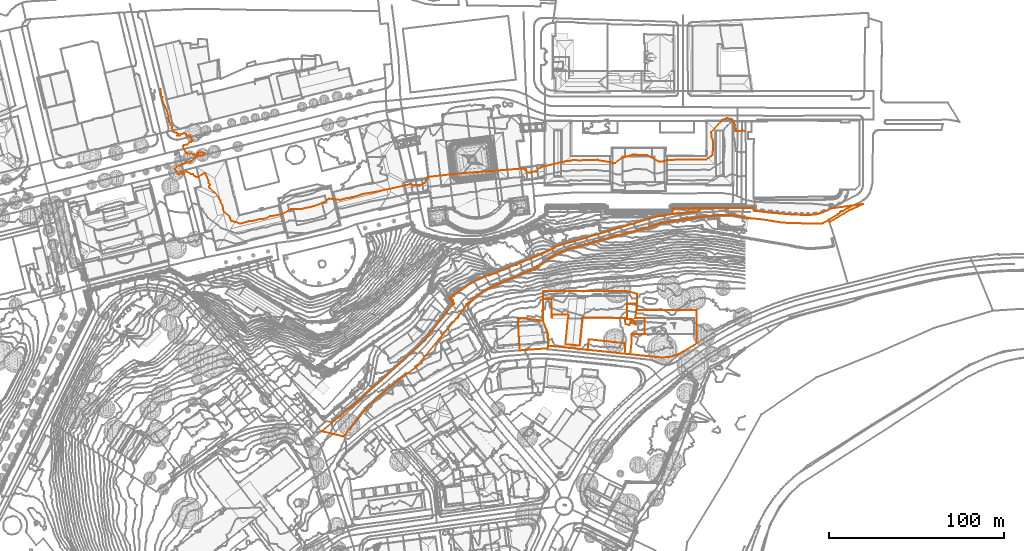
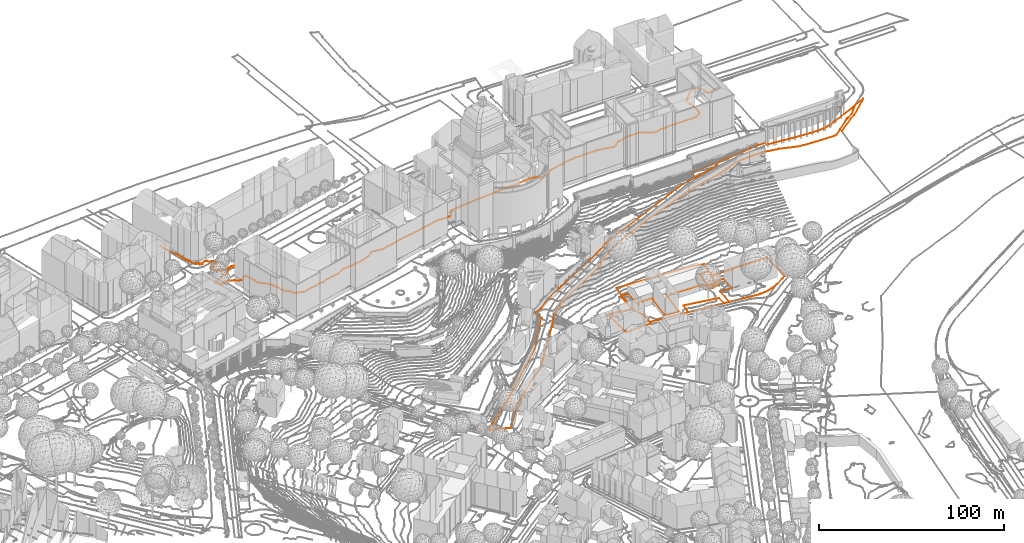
# Not in any storey, part 204 of 494: 7 proxies.
"""IFC2X3 model written with IfcOpenShell, lengths in metres."""

from ifc_helpers import new_model, entity, si_unit, frame, origin_with_axes, place, context, subcontext, project, element, save


model = new_model("IFC2X3")

# Units and contexts
model_context = context("Model", 3, precision=1e-05, world=origin_with_axes())
body_context = subcontext(model_context, "Body", "Model", "MODEL_VIEW")
ifc_project = project(units=[si_unit("AREAUNIT", "SQUARE_METRE"), si_unit("LENGTHUNIT", "METRE")], contexts=[model_context])

# Proxies
proxy_1_placement = place(None, frame((572.5467320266, 295.5037160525, 503.5652517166), z_axis=(0.0, 0.0, 1.0), x_axis=(1.0, 0.0, 0.0)))
element("IfcBuildingElementProxy", 1, at=proxy_1_placement, Name="Roads Outline 75", ObjectType="NOTDEFINED", context=body_context, shape_type="GeometricCurveSet", body=[
    entity("IfcGeometricCurveSet", [entity("IfcPolyline", [entity("IfcCartesianPoint", [0.0, 0.0, 0.0]), entity("IfcCartesianPoint", [0.0929999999, 12.2039999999, 1.0021894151]), entity("IfcCartesianPoint", [4.997, 12.1809999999, 1.1431564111]), entity("IfcCartesianPoint", [4.9470000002, 1.696, 0.0001002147]), entity("IfcCartesianPoint", [5.3470000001, 1.6949999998, 0.0318908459]), entity("IfcCartesianPoint", [5.3510000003, 3.395, 0.1046142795]), entity("IfcCartesianPoint", [14.6699999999, 3.3739999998, 0.2712751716]), entity("IfcCartesianPoint", [14.5180000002, 1.834, 0.1303660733]), entity("IfcCartesianPoint", [14.358, 1.8499999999, 0.128297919]), entity("IfcCartesianPoint", [12.8770000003, -13.118, -0.1621382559]), entity("IfcCartesianPoint", [13.0360000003, -13.1340000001, -0.1623201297]), entity("IfcCartesianPoint", [12.9990000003, -13.5120000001, -0.2126391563]), entity("IfcCartesianPoint", [20.8360000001, -14.2960000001, -0.3145292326]), entity("IfcCartesianPoint", [20.872, -13.9380000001, -0.2676843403]), entity("IfcCartesianPoint", [21.031, -13.9540000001, -0.2716908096]), entity("IfcCartesianPoint", [22.5460000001, 1.1939999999, 0.2283681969]), entity("IfcCartesianPoint", [22.392, 1.209, 0.228667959]), entity("IfcCartesianPoint", [22.423, 1.5659999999, 0.2669260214]), entity("IfcCartesianPoint", [22.9700000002, 1.5659999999, 0.1954197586]), entity("IfcCartesianPoint", [22.9700000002, 1.6359999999, 0.203171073]), entity("IfcCartesianPoint", [42.9620000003, 1.5819999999, -0.3715662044]), entity("IfcCartesianPoint", [42.9640000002, 1.5119999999, -0.367960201]), entity("IfcCartesianPoint", [48.105, 1.4649999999, -1.5519957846]), entity("IfcCartesianPoint", [48.1189999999, 9.6209999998, 0.3399770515]), entity("IfcCartesianPoint", [53.852, 9.612, 0.6102296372]), entity("IfcCartesianPoint", [52.8000000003, 1.5059999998, -1.4005607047]), entity("IfcCartesianPoint", [53.696, 1.5049999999, -1.4066999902]), entity("IfcCartesianPoint", [58.2370000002, 1.4949999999, -1.210120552]), entity("IfcCartesianPoint", [58.2370000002, -7.6370000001, -1.6249559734]), entity("IfcCartesianPoint", [53.693, -7.6300000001, -1.5895046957]), entity("IfcCartesianPoint", [50.8140000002, -7.625, -1.5833196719]), entity("IfcCartesianPoint", [50.6240000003, -13.078, -1.4773283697]), entity("IfcCartesianPoint", [49.841, -19.2520000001, -1.0334993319]), entity("IfcCartesianPoint", [46.7930000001, -18.9340000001, -1.0060092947]), entity("IfcCartesianPoint", [47.0020000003, -12.929, -1.2284957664]), entity("IfcCartesianPoint", [26.1490000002, -10.73, -0.1969498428]), entity("IfcCartesianPoint", [25.54, -16.7120000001, -0.8530217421]), entity("IfcCartesianPoint", [2.9500000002, -14.351, -0.7882030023]), entity("IfcCartesianPoint", [3.1570000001, -12.4440000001, -0.6795554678]), entity("IfcCartesianPoint", [2.9709999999, -12.4570000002, -0.67496345]), entity("IfcCartesianPoint", [2.574, -6.7240000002, -0.3101209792]), entity("IfcCartesianPoint", [0.0, 0.0, 0.0])])]),
])
proxy_2_placement = place(None, frame((446.1007320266, 232.3027160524, 506.4839161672), z_axis=(0.0, 0.0, 1.0), x_axis=(1.0, 0.0, 0.0)))
element("IfcBuildingElementProxy", 2, at=proxy_2_placement, Name="Roads Outline 95", ObjectType="NOTDEFINED", context=body_context, shape_type="GeometricCurveSet", body=[
    entity("IfcGeometricCurveSet", [entity("IfcPolyline", [entity("IfcCartesianPoint", [0.0, 0.0, 0.0]), entity("IfcCartesianPoint", [5.8990000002, 4.939, 0.1074958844]), entity("IfcCartesianPoint", [9.088, 7.6100000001, -0.3880306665]), entity("IfcCartesianPoint", [9.8930000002, 8.273, -0.3732149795]), entity("IfcCartesianPoint", [22.1860000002, 18.3910000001, -0.4672049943]), entity("IfcCartesianPoint", [28.6040000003, 24.2560000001, -0.2123942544]), entity("IfcCartesianPoint", [58.4920000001, 51.575, 1.2662591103]), entity("IfcCartesianPoint", [70.1150000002, 66.29, 2.3153255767]), entity("IfcCartesianPoint", [71.8110000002, 68.4370000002, 2.6812285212]), entity("IfcCartesianPoint", [74.4100000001, 71.767, 2.8700436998]), entity("IfcCartesianPoint", [75.77, 72.7480000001, 2.9635177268]), entity("IfcCartesianPoint", [75.6660000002, 72.8859999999, 3.001647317]), entity("IfcCartesianPoint", [75.4909999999, 73.1189999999, 3.0791915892]), entity("IfcCartesianPoint", [75.2790000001, 73.402, 3.1857140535]), entity("IfcCartesianPoint", [75.091, 73.6529999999, 3.2170798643]), entity("IfcCartesianPoint", [74.9190000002, 73.8810000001, 3.3292336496]), entity("IfcCartesianPoint", [74.7320000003, 74.132, 3.5119152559]), entity("IfcCartesianPoint", [74.5530000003, 74.3689999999, 3.7385145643]), entity("IfcCartesianPoint", [74.3740000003, 74.608, 3.9174924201]), entity("IfcCartesianPoint", [74.1720000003, 74.8770000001, 4.1176283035]), entity("IfcCartesianPoint", [74.003, 75.1030000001, 4.2592164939]), entity("IfcCartesianPoint", [73.821, 75.345, 4.4141067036]), entity("IfcCartesianPoint", [73.6150000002, 75.621, 4.4813286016]), entity("IfcCartesianPoint", [73.4350000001, 75.8600000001, 4.5822325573]), entity("IfcCartesianPoint", [73.2400000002, 76.1189999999, 4.7489271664]), entity("IfcCartesianPoint", [73.0500000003, 76.3730000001, 4.9524597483]), entity("IfcCartesianPoint", [79.6400000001, 80.618, 3.6526370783]), entity("IfcCartesianPoint", [85.5190000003, 84.629, 4.3979951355]), entity("IfcCartesianPoint", [95.588, 89.46, 5.9607220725]), entity("IfcCartesianPoint", [95.798, 88.98, 5.8919173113]), entity("IfcCartesianPoint", [97.585, 89.716, 6.188335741]), entity("IfcCartesianPoint", [98.5870000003, 90.128, 6.330554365]), entity("IfcCartesianPoint", [120.7760000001, 99.253, 9.7570997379]), entity("IfcCartesianPoint", [126.486, 101.7820000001, 10.7007699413]), entity("IfcCartesianPoint", [127.0079999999, 102.013, 10.7747824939]), entity("IfcCartesianPoint", [128.9920000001, 102.8910000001, 11.1085907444]), entity("IfcCartesianPoint", [129.4620000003, 103.0989999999, 11.1793821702]), entity("IfcCartesianPoint", [133.1540000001, 104.7339999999, 11.7926087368]), entity("IfcCartesianPoint", [132.9339999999, 105.304, 11.8923093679]), entity("IfcCartesianPoint", [159.7620000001, 113.0970000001, 15.8523871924]), entity("IfcCartesianPoint", [189.0989999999, 121.97, 19.8075010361]), entity("IfcCartesianPoint", [193.0090000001, 123.02, 20.2163377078]), entity("IfcCartesianPoint", [200.628, 124.0360000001, 21.0748858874]), entity("IfcCartesianPoint", [210.0070000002, 124.986, 22.1318307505]), entity("IfcCartesianPoint", [215.2379999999, 125.7830000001, 22.7274746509]), entity("IfcCartesianPoint", [215.5640000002, 125.9210000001, 22.7731889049]), entity("IfcCartesianPoint", [215.8530000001, 126.1259999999, 22.8101980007]), entity("IfcCartesianPoint", [216.091, 126.388, 22.8337718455]), entity("IfcCartesianPoint", [216.267, 126.6950000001, 22.8933199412]), entity("IfcCartesianPoint", [216.3730000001, 127.0330000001, 22.9555259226]), entity("IfcCartesianPoint", [216.4040000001, 127.3859999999, 23.0567249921]), entity("IfcCartesianPoint", [234.9410000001, 127.5449999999, 25.0631974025]), entity("IfcCartesianPoint", [239.855, 127.5870000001, 25.5103714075]), entity("IfcCartesianPoint", [240.2690000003, 127.591, 25.5737966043]), entity("IfcCartesianPoint", [242.4139999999, 127.6089999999, 25.7486517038]), entity("IfcCartesianPoint", [246.7740000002, 127.6189999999, 25.7562884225]), entity("IfcCartesianPoint", [246.7940000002, 125.9340000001, 25.5970639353]), entity("IfcCartesianPoint", [256.773, 124.7850000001, 25.6477351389]), entity("IfcCartesianPoint", [268.5670000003, 123.8360000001, 25.6154808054]), entity("IfcCartesianPoint", [271.2320000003, 123.6980000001, 25.6016673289]), entity("IfcCartesianPoint", [273.8990000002, 123.6140000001, 25.5932591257]), entity("IfcCartesianPoint", [276.5670000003, 123.5860000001, 25.5904563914]), entity("IfcCartesianPoint", [277.9560000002, 123.5600000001, 25.5878538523]), entity("IfcCartesianPoint", [279.3450000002, 123.605, 25.5923582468]), entity("IfcCartesianPoint", [280.73, 123.7210000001, 25.603969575]), entity("IfcCartesianPoint", [282.1070000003, 123.9080000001, 25.6226878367]), entity("IfcCartesianPoint", [283.4730000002, 124.166, 25.648513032]), entity("IfcCartesianPoint", [284.764, 124.548, 25.6596690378]), entity("IfcCartesianPoint", [286.037, 124.9850000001, 25.6376643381]), entity("IfcCartesianPoint", [287.2910000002, 125.4750000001, 25.6143492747]), entity("IfcCartesianPoint", [288.523, 126.017, 25.5939382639]), entity("IfcCartesianPoint", [289.7310000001, 126.612, 25.5767884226]), entity("IfcCartesianPoint", [290.9130000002, 127.2560000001, 25.5664114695]), entity("IfcCartesianPoint", [303.5870000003, 129.0120000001, 29.1556839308]), entity("IfcCartesianPoint", [300.8900000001, 127.5960000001, 25.7387239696]), entity("IfcCartesianPoint", [297.8650000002, 125.8959999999, 25.5984949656]), entity("IfcCartesianPoint", [297.5720000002, 125.8530000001, 25.6001142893]), entity("IfcCartesianPoint", [297.284, 125.784, 25.602712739]), entity("IfcCartesianPoint", [297.054, 125.709, 25.6055371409]), entity("IfcCartesianPoint", [296.8300000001, 125.6170000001, 25.6090017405]), entity("IfcCartesianPoint", [296.2970000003, 125.2590000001, 25.6238673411]), entity("IfcCartesianPoint", [295.0730000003, 123.9510000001, 25.6269920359]), entity("IfcCartesianPoint", [289.7940000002, 120.8260000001, 24.0356266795]), entity("IfcCartesianPoint", [286.6129999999, 118.905, 22.7059490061]), entity("IfcCartesianPoint", [285.4130000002, 118.5250000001, 22.4920366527]), entity("IfcCartesianPoint", [273.2490000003, 118.791, 22.6417753]), entity("IfcCartesianPoint", [267.4870000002, 118.915, 22.7115782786]), entity("IfcCartesianPoint", [262.5630000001, 119.23, 22.8889003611]), entity("IfcCartesianPoint", [251.6940000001, 120.9939999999, 24.1233488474]), entity("IfcCartesianPoint", [245.284, 121.6240000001, 24.4206663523]), entity("IfcCartesianPoint", [243.2600000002, 121.9410000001, 24.5470097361]), entity("IfcCartesianPoint", [242.4040000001, 122.074, 24.6000181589]), entity("IfcCartesianPoint", [234.375, 123.5330000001, 23.3298241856]), entity("IfcCartesianPoint", [225.9210000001, 123.358, 22.8194700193]), entity("IfcCartesianPoint", [220.423, 122.8090000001, 20.4684738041]), entity("IfcCartesianPoint", [215.4870000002, 122.317, 19.6702709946]), entity("IfcCartesianPoint", [200.8870000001, 120.0060000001, 18.5319538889]), entity("IfcCartesianPoint", [193.639, 118.8600000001, 17.8934733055]), entity("IfcCartesianPoint", [184.9250000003, 115.9440000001, 17.3362646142]), entity("IfcCartesianPoint", [164.4920000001, 110.5870000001, 15.0317870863]), entity("IfcCartesianPoint", [159.5060000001, 109.0970000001, 14.4636148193]), entity("IfcCartesianPoint", [159.1720000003, 108.997, 14.3885333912]), entity("IfcCartesianPoint", [140.1639999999, 103.7650000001, 10.7283547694]), entity("IfcCartesianPoint", [133.7940000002, 100.814, 9.4340345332]), entity("IfcCartesianPoint", [129.8250000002, 98.554, 8.8236002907]), entity("IfcCartesianPoint", [123.2460000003, 93.9480000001, 8.0655184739]), entity("IfcCartesianPoint", [123.415, 93.5430000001, 7.8823197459]), entity("IfcCartesianPoint", [119.216, 91.912, 7.1155300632]), entity("IfcCartesianPoint", [96.7290000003, 82.304, 3.6544075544]), entity("IfcCartesianPoint", [95.4210000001, 81.703, 3.611258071]), entity("IfcCartesianPoint", [94.1469999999, 81.034, 3.2488278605]), entity("IfcCartesianPoint", [92.9100000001, 80.298, 3.3687471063]), entity("IfcCartesianPoint", [91.7140000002, 79.4990000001, 3.0315082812]), entity("IfcCartesianPoint", [90.5610000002, 78.6370000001, 2.8828477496]), entity("IfcCartesianPoint", [89.8760000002, 78.1060000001, 2.7549767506]), entity("IfcCartesianPoint", [89.1950000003, 77.5700000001, 2.6113873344]), entity("IfcCartesianPoint", [87.014, 75.7690000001, 2.3516615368]), entity("IfcCartesianPoint", [86.2930000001, 75.1459999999, 2.3509451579]), entity("IfcCartesianPoint", [85.5640000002, 74.531, 2.3195028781]), entity("IfcCartesianPoint", [84.6469999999, 73.7790000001, 2.3688592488]), entity("IfcCartesianPoint", [83.719, 73.041, 2.4775161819]), entity("IfcCartesianPoint", [83.6440000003, 73.135, 2.5301096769]), entity("IfcCartesianPoint", [82.9640000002, 72.5930000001, 2.7927057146]), entity("IfcCartesianPoint", [82.8200000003, 72.4780000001, 2.8273210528]), entity("IfcCartesianPoint", [82.7609999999, 72.3870000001, 2.8357783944]), entity("IfcCartesianPoint", [80.682, 69.2250000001, 2.5187811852]), entity("IfcCartesianPoint", [80.4399999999, 68.858, 2.3447378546]), entity("IfcCartesianPoint", [72.2170000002, 58.784, 1.0848605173]), entity("IfcCartesianPoint", [66.8710000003, 52.2350000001, 0.5067630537]), entity("IfcCartesianPoint", [54.7280000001, 37.4380000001, -0.1221918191]), entity("IfcCartesianPoint", [53.8190000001, 36.942, -0.1215364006]), entity("IfcCartesianPoint", [54.003, 36.608, -0.1864918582]), entity("IfcCartesianPoint", [47.9330000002, 32.2420000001, -0.9836282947]), entity("IfcCartesianPoint", [44.3940000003, 29.682, -1.3732528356]), entity("IfcCartesianPoint", [34.0950000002, 21.1810000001, -1.5078236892]), entity("IfcCartesianPoint", [25.7760000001, 13.591, -1.4293907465]), entity("IfcCartesianPoint", [25.355, 13.0560000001, -1.4810701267]), entity("IfcCartesianPoint", [20.6570000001, 7.091, -1.7935079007]), entity("IfcCartesianPoint", [12.4280000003, -2.96, -1.328702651]), entity("IfcCartesianPoint", [10.602, -2.5249999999, -1.1241985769]), entity("IfcCartesianPoint", [0.0, 0.0, 0.0])])]),
])
proxy_3_placement = place(None, frame((446.1007320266, 232.3027160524, 506.4839161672), z_axis=(0.0, 0.0, 1.0), x_axis=(1.0, 0.0, 0.0)))
element("IfcBuildingElementProxy", 3, at=proxy_3_placement, Name="Cadastre 24", ObjectType="NOTDEFINED", context=body_context, shape_type="GeometricCurveSet", body=[
    entity("IfcGeometricCurveSet", [entity("IfcPolyline", [entity("IfcCartesianPoint", [0.0, 0.0, 0.0]), entity("IfcCartesianPoint", [9.088, 7.6100000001, -0.3880306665]), entity("IfcCartesianPoint", [22.1860000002, 18.3910000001, -0.4672049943]), entity("IfcCartesianPoint", [58.4920000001, 51.575, 1.2662591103]), entity("IfcCartesianPoint", [71.8110000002, 68.4370000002, 2.6812285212]), entity("IfcCartesianPoint", [74.4100000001, 71.767, 2.8700436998]), entity("IfcCartesianPoint", [75.77, 72.7480000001, 2.9635177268]), entity("IfcCartesianPoint", [73.0500000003, 76.3730000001, 4.9524597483]), entity("IfcCartesianPoint", [79.6400000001, 80.618, 3.6526370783]), entity("IfcCartesianPoint", [85.5190000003, 84.629, 4.3979951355]), entity("IfcCartesianPoint", [95.588, 89.46, 5.9607220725]), entity("IfcCartesianPoint", [95.798, 88.98, 5.8919173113]), entity("IfcCartesianPoint", [120.7760000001, 99.253, 9.7570997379]), entity("IfcCartesianPoint", [133.1540000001, 104.7339999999, 11.7926087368]), entity("IfcCartesianPoint", [132.9339999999, 105.304, 11.8923093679]), entity("IfcCartesianPoint", [159.7620000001, 113.0970000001, 15.8523871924]), entity("IfcCartesianPoint", [189.0989999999, 121.97, 19.8075010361]), entity("IfcCartesianPoint", [193.0090000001, 123.02, 20.2163377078]), entity("IfcCartesianPoint", [200.628, 124.0360000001, 21.0748858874]), entity("IfcCartesianPoint", [200.6129999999, 127.2509999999, 22.6152971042]), entity("IfcCartesianPoint", [242.4139999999, 127.6089999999, 25.7486517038]), entity("IfcCartesianPoint", [246.7740000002, 127.6189999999, 25.7562884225]), entity("IfcCartesianPoint", [246.7940000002, 125.9340000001, 25.5970639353]), entity("IfcCartesianPoint", [256.773, 124.7850000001, 25.6477351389]), entity("IfcCartesianPoint", [268.5670000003, 123.8360000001, 25.6154808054]), entity("IfcCartesianPoint", [271.2320000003, 123.6980000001, 25.6016673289]), entity("IfcCartesianPoint", [273.8990000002, 123.6140000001, 25.5932591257]), entity("IfcCartesianPoint", [276.5670000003, 123.5860000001, 25.5904563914]), entity("IfcCartesianPoint", [277.9560000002, 123.5600000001, 25.5878538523]), entity("IfcCartesianPoint", [279.3450000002, 123.605, 25.5923582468]), entity("IfcCartesianPoint", [280.73, 123.7210000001, 25.603969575]), entity("IfcCartesianPoint", [282.1070000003, 123.9080000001, 25.6226878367]), entity("IfcCartesianPoint", [283.4730000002, 124.166, 25.648513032]), entity("IfcCartesianPoint", [284.764, 124.548, 25.6596690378]), entity("IfcCartesianPoint", [286.037, 124.9850000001, 25.6376643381]), entity("IfcCartesianPoint", [287.2910000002, 125.4750000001, 25.6143492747]), entity("IfcCartesianPoint", [288.523, 126.017, 25.5939382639]), entity("IfcCartesianPoint", [289.7310000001, 126.612, 25.5767884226]), entity("IfcCartesianPoint", [290.9130000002, 127.2560000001, 25.5664114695]), entity("IfcCartesianPoint", [309.4750000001, 129.827, 31.6315327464]), entity("IfcCartesianPoint", [301.6150000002, 126.2960000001, 25.583431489]), entity("IfcCartesianPoint", [298.6040000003, 124.476, 25.6632945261]), entity("IfcCartesianPoint", [290.1940000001, 119.575, 23.13837259]), entity("IfcCartesianPoint", [289.7940000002, 120.8260000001, 24.0356266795]), entity("IfcCartesianPoint", [286.6129999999, 118.905, 22.7059490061]), entity("IfcCartesianPoint", [285.4130000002, 118.5250000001, 22.4920366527]), entity("IfcCartesianPoint", [267.4870000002, 118.915, 22.7115782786]), entity("IfcCartesianPoint", [262.5630000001, 119.23, 22.8889003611]), entity("IfcCartesianPoint", [251.6940000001, 120.9939999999, 24.1233488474]), entity("IfcCartesianPoint", [245.284, 121.6240000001, 24.4206663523]), entity("IfcCartesianPoint", [242.4040000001, 122.074, 24.6000181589]), entity("IfcCartesianPoint", [234.375, 123.5330000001, 23.3298241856]), entity("IfcCartesianPoint", [225.9210000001, 123.358, 22.8194700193]), entity("IfcCartesianPoint", [215.4870000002, 122.317, 19.6702709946]), entity("IfcCartesianPoint", [193.639, 118.8600000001, 17.8934733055]), entity("IfcCartesianPoint", [184.9250000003, 115.9440000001, 17.3362646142]), entity("IfcCartesianPoint", [164.4920000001, 110.5870000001, 15.0317870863]), entity("IfcCartesianPoint", [159.1720000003, 108.997, 14.3885333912]), entity("IfcCartesianPoint", [140.1639999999, 103.7650000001, 10.7283547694]), entity("IfcCartesianPoint", [133.7940000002, 100.814, 9.4340345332]), entity("IfcCartesianPoint", [129.8250000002, 98.554, 8.8236002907]), entity("IfcCartesianPoint", [123.2460000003, 93.9480000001, 8.0655184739]), entity("IfcCartesianPoint", [123.415, 93.5430000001, 7.8823197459]), entity("IfcCartesianPoint", [119.216, 91.912, 7.1155300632]), entity("IfcCartesianPoint", [96.6880000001, 82.3500000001, 3.6830773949]), entity("IfcCartesianPoint", [92.7379999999, 80.2590000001, 3.4170862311]), entity("IfcCartesianPoint", [89.179, 77.5890000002, 2.6247762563]), entity("IfcCartesianPoint", [83.0040000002, 72.7580000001, 2.7946065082]), entity("IfcCartesianPoint", [80.4399999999, 68.858, 2.3447378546]), entity("IfcCartesianPoint", [66.8710000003, 52.2350000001, 0.5067630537]), entity("IfcCartesianPoint", [54.7030000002, 37.4080000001, -0.1249035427]), entity("IfcCartesianPoint", [54.003, 36.608, -0.1864918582]), entity("IfcCartesianPoint", [47.9330000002, 32.2420000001, -0.9836282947]), entity("IfcCartesianPoint", [44.3940000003, 29.682, -1.3732528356]), entity("IfcCartesianPoint", [34.0950000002, 21.1810000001, -1.5078236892]), entity("IfcCartesianPoint", [25.7760000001, 13.591, -1.4293907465]), entity("IfcCartesianPoint", [20.6570000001, 7.091, -1.7935079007]), entity("IfcCartesianPoint", [12.4280000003, -2.96, -1.328702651]), entity("IfcCartesianPoint", [0.0, 0.0, 0.0])])]),
])
proxy_4_placement = place(None, frame((558.2277320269, 297.0727160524, 504.1260811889), z_axis=(0.0, 0.0, 1.0), x_axis=(1.0, 0.0, 0.0)))
element("IfcBuildingElementProxy", 4, at=proxy_4_placement, Name="Cadastre 121", ObjectType="NOTDEFINED", context=body_context, shape_type="GeometricCurveSet", body=[
    entity("IfcGeometricCurveSet", [entity("IfcPolyline", [entity("IfcCartesianPoint", [0.0, 0.0, 0.0]), entity("IfcCartesianPoint", [14.3189999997, -1.5689999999, -0.5608294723]), entity("IfcCartesianPoint", [17.1039999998, -8.2749999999, -0.882284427]), entity("IfcCartesianPoint", [17.4929999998, -13.8599999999, -1.2274075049]), entity("IfcCartesianPoint", [17.2689999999, -15.9199999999, -1.3490324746]), entity("IfcCartesianPoint", [17.1089999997, -17.3899999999, -1.4010812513]), entity("IfcCartesianPoint", [1.0699999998, -18.602, -1.0858858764]), entity("IfcCartesianPoint", [0.8799999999, -15.3810000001, -0.9630304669]), entity("IfcCartesianPoint", [0.1399999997, -2.45, -0.2200865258]), entity("IfcCartesianPoint", [0.0, 0.0, 0.0])])]),
])
proxy_5_placement = place(None, frame((572.5467320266, 295.5037160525, 503.5652517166), z_axis=(0.0, 0.0, 1.0), x_axis=(1.0, 0.0, 0.0)))
element("IfcBuildingElementProxy", 5, at=proxy_5_placement, Name="Cadastre 123", ObjectType="NOTDEFINED", context=body_context, shape_type="GeometricCurveSet", body=[
    entity("IfcGeometricCurveSet", [entity("IfcPolyline", [entity("IfcCartesianPoint", [0.0, 0.0, 0.0]), entity("IfcCartesianPoint", [0.1290000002, 16.9109999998, 3.7058547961]), entity("IfcCartesianPoint", [47.9650000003, 16.8049999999, 1.619848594]), entity("IfcCartesianPoint", [53.9070000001, 15.298, 1.468391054]), entity("IfcCartesianPoint", [53.9070000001, 6.0259999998, -0.2183526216]), entity("IfcCartesianPoint", [87.8289999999, 6.0289999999, -0.1216600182]), entity("IfcCartesianPoint", [87.8289999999, -12.9720000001, -0.9539839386]), entity("IfcCartesianPoint", [86.392, -13.933, -0.9497873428]), entity("IfcCartesianPoint", [84.963, -14.905, -0.9389783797]), entity("IfcCartesianPoint", [80.1830000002, -17.6410000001, -0.9250668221]), entity("IfcCartesianPoint", [79.1030000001, -18.264, -0.9249988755]), entity("IfcCartesianPoint", [77.9909999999, -18.827, -0.9539095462]), entity("IfcCartesianPoint", [76.8489999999, -19.328, -0.9467399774]), entity("IfcCartesianPoint", [75.682, -19.7660000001, -0.9172152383]), entity("IfcCartesianPoint", [74.4920000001, -20.139, -0.9175791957]), entity("IfcCartesianPoint", [73.284, -20.446, -0.9454837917]), entity("IfcCartesianPoint", [72.0649999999, -20.6950000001, -0.9277617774]), entity("IfcCartesianPoint", [70.8330000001, -20.878, -0.8881667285]), entity("IfcCartesianPoint", [69.594, -20.9920000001, -0.892708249]), entity("IfcCartesianPoint", [68.3500000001, -21.0380000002, -0.9676926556]), entity("IfcCartesianPoint", [67.105, -21.017, -0.9909201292]), entity("IfcCartesianPoint", [65.8640000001, -20.9270000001, -1.018300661]), entity("IfcCartesianPoint", [2.9500000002, -14.351, -0.7882030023]), entity("IfcCartesianPoint", [3.1740000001, -12.291, -0.6665780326]), entity("IfcCartesianPoint", [2.7850000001, -6.706, -0.3214549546]), entity("IfcCartesianPoint", [0.0, 0.0, 0.0])])]),
])
proxy_6_placement = place(None, frame((354.0435137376, 426.1707160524, 542.0), z_axis=(0.0, 0.0, 1.0), x_axis=(1.0, 0.0, 0.0)))
element("IfcBuildingElementProxy", 6, at=proxy_6_placement, Name="Contour Line 542.0 m", ObjectType="NOTDEFINED", context=body_context, shape_type="GeometricCurveSet", body=[
    entity("IfcGeometricCurveSet", [entity("IfcPolyline", [entity("IfcCartesianPoint", [334.1342182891, -22.5193929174, 0.0]), entity("IfcCartesianPoint", [332.6342182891, -22.0364864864, 0.0]), entity("IfcCartesianPoint", [330.6342182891, -22.4542085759, 0.0]), entity("IfcCartesianPoint", [328.6342182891, -22.3165064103, 0.0]), entity("IfcCartesianPoint", [328.5171324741, -21.0, 0.0]), entity("IfcCartesianPoint", [327.932772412, -20.0, 0.0]), entity("IfcCartesianPoint", [328.4135262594, -19.0, 0.0]), entity("IfcCartesianPoint", [326.6342182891, -15.7024904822, 0.0]), entity("IfcCartesianPoint", [323.6342182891, -15.1041711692, 0.0]), entity("IfcCartesianPoint", [320.9841616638, -16.0, 0.0]), entity("IfcCartesianPoint", [314.7089359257, -23.0, 0.0]), entity("IfcCartesianPoint", [314.8400377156, -26.0, 0.0]), entity("IfcCartesianPoint", [315.5289317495, -27.0, 0.0]), entity("IfcCartesianPoint", [315.7342592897, -29.0, 0.0]), entity("IfcCartesianPoint", [315.8209386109, -32.0, 0.0]), entity("IfcCartesianPoint", [315.3312647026, -36.0, 0.0]), entity("IfcCartesianPoint", [314.6342182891, -36.7329192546, 0.0]), entity("IfcCartesianPoint", [311.6342182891, -38.6040241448, 0.0]), entity("IfcCartesianPoint", [289.6342182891, -38.8621056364, 0.0]), entity("IfcCartesianPoint", [287.6342182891, -39.6509363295, 0.0]), entity("IfcCartesianPoint", [285.6342182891, -39.9447803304, 0.0]), entity("IfcCartesianPoint", [284.6342182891, -39.691989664, 0.0]), entity("IfcCartesianPoint", [277.6342182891, -36.0589147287, 0.0]), entity("IfcCartesianPoint", [269.6342182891, -35.9082377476, 0.0]), entity("IfcCartesianPoint", [264.6342182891, -37.497232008, 0.0]), entity("IfcCartesianPoint", [263.6342182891, -37.5782246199, 0.0]), entity("IfcCartesianPoint", [259.6342182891, -40.7083786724, 0.0]), entity("IfcCartesianPoint", [258.6342182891, -40.8464730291, 0.0]), entity("IfcCartesianPoint", [256.6342182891, -40.1685772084, 0.0]), entity("IfcCartesianPoint", [250.6342182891, -39.1710816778, 0.0]), entity("IfcCartesianPoint", [249.6342182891, -38.7119429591, 0.0]), entity("IfcCartesianPoint", [248.6342182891, -38.9811051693, 0.0]), entity("IfcCartesianPoint", [241.6342182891, -38.9795281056, 0.0]), entity("IfcCartesianPoint", [239.6342182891, -39.2350197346, 0.0]), entity("IfcCartesianPoint", [235.6342182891, -38.9328410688, 0.0]), entity("IfcCartesianPoint", [233.6342182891, -39.4330949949, 0.0]), entity("IfcCartesianPoint", [231.6342182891, -39.5545280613, 0.0]), entity("IfcCartesianPoint", [218.6342182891, -42.6614246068, 0.0]), entity("IfcCartesianPoint", [216.6342182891, -43.399482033, 0.0]), entity("IfcCartesianPoint", [214.6342182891, -45.2776632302, 0.0]), entity("IfcCartesianPoint", [211.6342182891, -45.9920387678, 0.0]), entity("IfcCartesianPoint", [209.6342182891, -46.1073977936, 0.0]), entity("IfcCartesianPoint", [208.6342182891, -44.7158469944, 0.0]), entity("IfcCartesianPoint", [206.6342182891, -43.8150664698, 0.0]), entity("IfcCartesianPoint", [169.6342182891, -46.7037802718, 0.0]), entity("IfcCartesianPoint", [153.6342182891, -48.5062761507, 0.0]), entity("IfcCartesianPoint", [152.6342182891, -48.770124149, 0.0]), entity("IfcCartesianPoint", [151.0067062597, -52.0, 0.0]), entity("IfcCartesianPoint", [149.6342182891, -52.9912327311, 0.0]), entity("IfcCartesianPoint", [144.6342182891, -53.383901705, 0.0]), entity("IfcCartesianPoint", [142.6342182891, -52.7950647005, 0.0]), entity("IfcCartesianPoint", [125.6342182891, -56.5814569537, 0.0]), entity("IfcCartesianPoint", [115.6342182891, -58.3856545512, 0.0]), entity("IfcCartesianPoint", [109.6342182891, -60.2153095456, 0.0]), entity("IfcCartesianPoint", [105.6342182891, -60.896140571, 0.0]), entity("IfcCartesianPoint", [102.6342182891, -61.7300553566, 0.0]), entity("IfcCartesianPoint", [96.6342182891, -61.0561242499, 0.0]), entity("IfcCartesianPoint", [95.6342182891, -61.4047023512, 0.0]), entity("IfcCartesianPoint", [92.6342182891, -63.3796514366, 0.0]), entity("IfcCartesianPoint", [87.6342182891, -65.3140939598, 0.0]), entity("IfcCartesianPoint", [80.6342182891, -66.8172743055, 0.0]), entity("IfcCartesianPoint", [74.6342182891, -66.9491768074, 0.0]), entity("IfcCartesianPoint", [69.6342182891, -69.8056549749, 0.0]), entity("IfcCartesianPoint", [62.6342182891, -71.0911726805, 0.0]), entity("IfcCartesianPoint", [59.6342182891, -72.4978737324, 0.0]), entity("IfcCartesianPoint", [56.6342182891, -72.5980360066, 0.0]), entity("IfcCartesianPoint", [53.6342182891, -73.5762165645, 0.0]), entity("IfcCartesianPoint", [50.6342182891, -73.8693649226, 0.0]), entity("IfcCartesianPoint", [45.6342182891, -75.321707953, 0.0]), entity("IfcCartesianPoint", [40.6342182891, -73.6820682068, 0.0]), entity("IfcCartesianPoint", [40.0971892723, -73.0, 0.0]), entity("IfcCartesianPoint", [39.6342182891, -71.3729582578, 0.0]), entity("IfcCartesianPoint", [36.6739064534, -69.0, 0.0]), entity("IfcCartesianPoint", [35.7239366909, -67.0, 0.0]), entity("IfcCartesianPoint", [35.6342182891, -64.8711340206, 0.0]), entity("IfcCartesianPoint", [34.3970487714, -63.0, 0.0]), entity("IfcCartesianPoint", [34.3644814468, -62.0, 0.0]), entity("IfcCartesianPoint", [33.6307490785, -61.0, 0.0]), entity("IfcCartesianPoint", [33.3115816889, -60.0, 0.0]), entity("IfcCartesianPoint", [28.1545609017, -55.0, 0.0]), entity("IfcCartesianPoint", [27.7204473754, -54.0, 0.0]), entity("IfcCartesianPoint", [28.2869128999, -53.0, 0.0]), entity("IfcCartesianPoint", [27.5967395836, -52.0, 0.0]), entity("IfcCartesianPoint", [27.557687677, -51.0, 0.0]), entity("IfcCartesianPoint", [25.6342182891, -46.2770700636, 0.0]), entity("IfcCartesianPoint", [24.6342182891, -46.6227129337, 0.0]), entity("IfcCartesianPoint", [21.6342182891, -48.536259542, 0.0]), entity("IfcCartesianPoint", [20.6342182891, -48.6357142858, 0.0]), entity("IfcCartesianPoint", [19.3911045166, -48.0, 0.0]), entity("IfcCartesianPoint", [18.6342182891, -47.0109546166, 0.0]), entity("IfcCartesianPoint", [17.6342182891, -47.0950226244, 0.0]), entity("IfcCartesianPoint", [14.6342182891, -45.4864321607, 0.0]), entity("IfcCartesianPoint", [13.6342182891, -46.1237113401, 0.0]), entity("IfcCartesianPoint", [12.6342182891, -45.62716763, 0.0]), entity("IfcCartesianPoint", [11.8271275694, -46.0, 0.0]), entity("IfcCartesianPoint", [12.6342182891, -47.0743575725, 0.0]), entity("IfcCartesianPoint", [11.6342182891, -46.148, 0.0]), entity("IfcCartesianPoint", [10.6342182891, -47.1727591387, 0.0]), entity("IfcCartesianPoint", [10.1844138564, -47.0, 0.0]), entity("IfcCartesianPoint", [9.4099758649, -46.0, 0.0]), entity("IfcCartesianPoint", [9.0645384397, -45.0, 0.0]), entity("IfcCartesianPoint", [8.0119221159, -44.0, 0.0]), entity("IfcCartesianPoint", [9.6342182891, -42.6807817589, 0.0]), entity("IfcCartesianPoint", [14.6342182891, -40.4855305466, 0.0]), entity("IfcCartesianPoint", [15.0822895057, -40.0, 0.0]), entity("IfcCartesianPoint", [15.6342182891, -39.8288868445, 0.0]), entity("IfcCartesianPoint", [16.6342182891, -40.1660461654, 0.0]), entity("IfcCartesianPoint", [17.6342182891, -39.6412280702, 0.0]), entity("IfcCartesianPoint", [20.5166164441, -37.0, 0.0]), entity("IfcCartesianPoint", [20.6342182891, -36.5761772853, 0.0]), entity("IfcCartesianPoint", [21.6342182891, -36.1161387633, 0.0]), entity("IfcCartesianPoint", [23.6342182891, -36.5839243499, 0.0]), entity("IfcCartesianPoint", [24.381947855, -36.0, 0.0]), entity("IfcCartesianPoint", [24.6342182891, -35.3842364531, 0.0]), entity("IfcCartesianPoint", [25.3275516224, -35.0, 0.0]), entity("IfcCartesianPoint", [23.6342182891, -34.4937786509, 0.0]), entity("IfcCartesianPoint", [21.6342182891, -34.9079714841, 0.0]), entity("IfcCartesianPoint", [20.6342182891, -35.775135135, 0.0]), entity("IfcCartesianPoint", [18.6342182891, -35.7558494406, 0.0]), entity("IfcCartesianPoint", [17.6342182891, -35.1934404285, 0.0]), entity("IfcCartesianPoint", [16.6342182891, -35.354029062, 0.0]), entity("IfcCartesianPoint", [14.6342182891, -34.8410991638, 0.0]), entity("IfcCartesianPoint", [12.8199006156, -31.0, 0.0]), entity("IfcCartesianPoint", [13.6342182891, -30.3745704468, 0.0]), entity("IfcCartesianPoint", [15.4397738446, -30.0, 0.0]), entity("IfcCartesianPoint", [16.6342182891, -28.5078260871, 0.0]), entity("IfcCartesianPoint", [17.6342182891, -28.6208955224, 0.0]), entity("IfcCartesianPoint", [18.3106410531, -28.0, 0.0]), entity("IfcCartesianPoint", [17.5809808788, -26.0, 0.0]), entity("IfcCartesianPoint", [16.8431539, -25.0, 0.0]), entity("IfcCartesianPoint", [15.6342182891, -25.1827203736, 0.0]), entity("IfcCartesianPoint", [15.1481934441, -25.0, 0.0]), entity("IfcCartesianPoint", [14.6342182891, -24.1598984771, 0.0]), entity("IfcCartesianPoint", [13.6342182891, -23.5247524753, 0.0]), entity("IfcCartesianPoint", [11.6342182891, -24.2228571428, 0.0]), entity("IfcCartesianPoint", [11.1778424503, -25.0, 0.0]), entity("IfcCartesianPoint", [9.5248432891, -25.0, 0.0]), entity("IfcCartesianPoint", [9.9624234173, -24.0, 0.0]), entity("IfcCartesianPoint", [9.6342182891, -23.5173453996, 0.0]), entity("IfcCartesianPoint", [7.5353810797, -23.0, 0.0]), entity("IfcCartesianPoint", [7.3292761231, -22.0, 0.0]), entity("IfcCartesianPoint", [6.5217922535, -21.0, 0.0]), entity("IfcCartesianPoint", [6.7977731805, -20.0, 0.0]), entity("IfcCartesianPoint", [5.8885354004, -19.0, 0.0]), entity("IfcCartesianPoint", [5.7622836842, -18.0, 0.0]), entity("IfcCartesianPoint", [4.9666244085, -17.0, 0.0]), entity("IfcCartesianPoint", [4.9927088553, -16.0, 0.0]), entity("IfcCartesianPoint", [4.425852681, -15.0, 0.0]), entity("IfcCartesianPoint", [4.708019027, -14.0, 0.0]), entity("IfcCartesianPoint", [3.5334198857, -10.0, 0.0]), entity("IfcCartesianPoint", [1.4734219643, -6.0, 0.0]), entity("IfcCartesianPoint", [1.0330840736, -4.0, 0.0]), entity("IfcCartesianPoint", [1.1452315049, -3.0, 0.0]), entity("IfcCartesianPoint", [0.2333036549, -2.0, 0.0]), entity("IfcCartesianPoint", [0.5287869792, -1.0, 0.0]), entity("IfcCartesianPoint", [0.0, 0.0, 0.0]), entity("IfcCartesianPoint", [0.1426559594, 1.5, 0.0])])]),
])
proxy_7_placement = place(None, frame((619.6076306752, 296.1707160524, 502.0), z_axis=(0.0, 0.0, 1.0), x_axis=(1.0, 0.0, 0.0)))
element("IfcBuildingElementProxy", 7, at=proxy_7_placement, Name="Contour Line 502.0 m", ObjectType="NOTDEFINED", context=body_context, shape_type="GeometricCurveSet", body=[
    entity("IfcGeometricCurveSet", [entity("IfcPolyline", [entity("IfcCartesianPoint", [6.0701013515, -3.0620689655, 0.0]), entity("IfcCartesianPoint", [5.7630590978, -2.0, 0.0]), entity("IfcCartesianPoint", [4.2093418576, -1.0, 0.0]), entity("IfcCartesianPoint", [4.4644325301, 0.0, 0.0]), entity("IfcCartesianPoint", [1.0701013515, 0.2873926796, 0.0]), entity("IfcCartesianPoint", [0.0, 0.0, 0.0]), entity("IfcCartesianPoint", [0.0701013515, -2.6172607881, 0.0]), entity("IfcCartesianPoint", [2.0701013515, -3.2993197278, 0.0]), entity("IfcCartesianPoint", [2.4659034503, -3.0, 0.0]), entity("IfcCartesianPoint", [3.0701013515, -0.8973607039, 0.0]), entity("IfcCartesianPoint", [3.7497130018, -1.0, 0.0]), entity("IfcCartesianPoint", [3.5899033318, -2.0, 0.0]), entity("IfcCartesianPoint", [6.0701013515, -3.0620689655, 0.0])])]),
])

save(model, "model.ifc")
